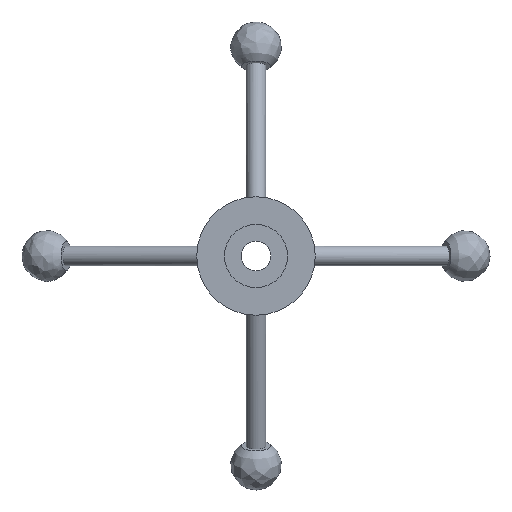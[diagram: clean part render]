
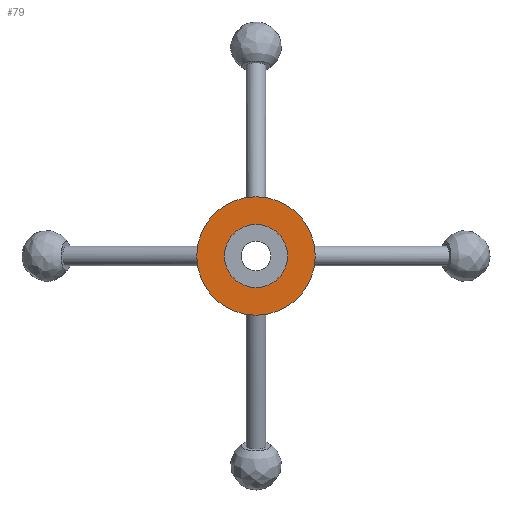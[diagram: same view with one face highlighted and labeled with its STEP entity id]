
A CAD part, front view. The second image highlights one B-rep face of the part: STEP entity #79.
In plain terms, the highlighted planar face has unit normal (0, -1, 0).
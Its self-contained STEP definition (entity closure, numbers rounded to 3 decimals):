
#79 = ADVANCED_FACE( '', ( #107, #108 ), #109, .F. );
#107 = FACE_BOUND( '', #202, .T. );
#108 = FACE_OUTER_BOUND( '', #203, .T. );
#109 = PLANE( '', #204 );
#202 = EDGE_LOOP( '', ( #370 ) );
#203 = EDGE_LOOP( '', ( #371 ) );
#204 = AXIS2_PLACEMENT_3D( '', #372, #373, #374 );
#370 = ORIENTED_EDGE( '', *, *, #446, .F. );
#371 = ORIENTED_EDGE( '', *, *, #447, .T. );
#372 = CARTESIAN_POINT( '', ( 30., 11., 0. ) );
#373 = DIRECTION( '', ( 0., 1., 0. ) );
#374 = DIRECTION( '', ( 0., 0., 1. ) );
#446 = EDGE_CURVE( '', #473, #473, #474, .T. );
#447 = EDGE_CURVE( '', #475, #475, #476, .T. );
#473 = VERTEX_POINT( '', #584 );
#474 = CIRCLE( '', #585, 16. );
#475 = VERTEX_POINT( '', #586 );
#476 = CIRCLE( '', #587, 30. );
#584 = CARTESIAN_POINT( '', ( 0., 11., -16. ) );
#585 = AXIS2_PLACEMENT_3D( '', #839, #840, #841 );
#586 = CARTESIAN_POINT( '', ( 0., 11., -30. ) );
#587 = AXIS2_PLACEMENT_3D( '', #842, #843, #844 );
#839 = CARTESIAN_POINT( '', ( 0., 11., 0. ) );
#840 = DIRECTION( '', ( 0., -1., 0. ) );
#841 = DIRECTION( '', ( 0., 0., -1. ) );
#842 = CARTESIAN_POINT( '', ( 0., 11., 0. ) );
#843 = DIRECTION( '', ( 0., -1., 0. ) );
#844 = DIRECTION( '', ( 0., 0., -1. ) );
